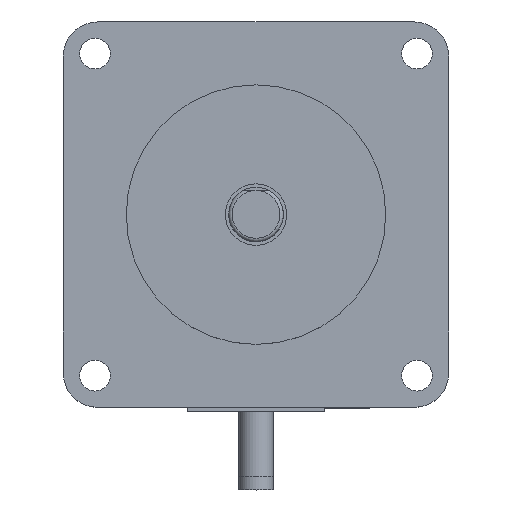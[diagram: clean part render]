
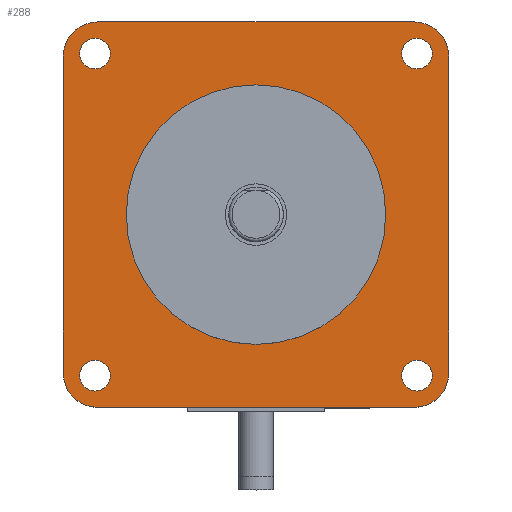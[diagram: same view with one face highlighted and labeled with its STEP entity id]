
A CAD part, top view. The second image highlights one B-rep face of the part: STEP entity #288.
In plain terms, the highlighted planar face has unit normal (0, 0, 1).
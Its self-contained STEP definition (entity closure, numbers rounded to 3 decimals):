
#288=ADVANCED_FACE('',(#800,#801,#802,#803,#804,#805),#411,.F.);
#411=PLANE('',#2372);
#466=LINE('',#3427,#633);
#467=LINE('',#3432,#634);
#468=LINE('',#3436,#635);
#469=LINE('',#3440,#636);
#633=VECTOR('',#2695,1.);
#634=VECTOR('',#2698,1.);
#635=VECTOR('',#2701,1.);
#636=VECTOR('',#2704,1.);
#800=FACE_BOUND('',#843,.T.);
#801=FACE_BOUND('',#844,.T.);
#802=FACE_BOUND('',#845,.T.);
#803=FACE_BOUND('',#846,.T.);
#804=FACE_BOUND('',#847,.T.);
#805=FACE_BOUND('',#848,.T.);
#843=EDGE_LOOP('',(#1013));
#844=EDGE_LOOP('',(#1014));
#845=EDGE_LOOP('',(#1015));
#846=EDGE_LOOP('',(#1016));
#847=EDGE_LOOP('',(#1017));
#848=EDGE_LOOP('',(#1018,#1019,#1020,#1021,#1022,#1023,#1024,#1025));
#1013=ORIENTED_EDGE('',*,*,#1885,.F.);
#1014=ORIENTED_EDGE('',*,*,#1886,.F.);
#1015=ORIENTED_EDGE('',*,*,#1887,.F.);
#1016=ORIENTED_EDGE('',*,*,#1888,.F.);
#1017=ORIENTED_EDGE('',*,*,#1889,.T.);
#1018=ORIENTED_EDGE('',*,*,#1890,.F.);
#1019=ORIENTED_EDGE('',*,*,#1891,.T.);
#1020=ORIENTED_EDGE('',*,*,#1892,.F.);
#1021=ORIENTED_EDGE('',*,*,#1893,.T.);
#1022=ORIENTED_EDGE('',*,*,#1894,.F.);
#1023=ORIENTED_EDGE('',*,*,#1895,.T.);
#1024=ORIENTED_EDGE('',*,*,#1896,.F.);
#1025=ORIENTED_EDGE('',*,*,#1897,.T.);
#1663=VERTEX_POINT('',#3418);
#1664=VERTEX_POINT('',#3420);
#1665=VERTEX_POINT('',#3422);
#1666=VERTEX_POINT('',#3424);
#1667=VERTEX_POINT('',#3426);
#1668=VERTEX_POINT('',#3428);
#1669=VERTEX_POINT('',#3429);
#1670=VERTEX_POINT('',#3431);
#1671=VERTEX_POINT('',#3433);
#1672=VERTEX_POINT('',#3435);
#1673=VERTEX_POINT('',#3437);
#1674=VERTEX_POINT('',#3439);
#1675=VERTEX_POINT('',#3441);
#1885=EDGE_CURVE('',#1663,#1663,#2200,.T.);
#1886=EDGE_CURVE('',#1664,#1664,#2201,.T.);
#1887=EDGE_CURVE('',#1665,#1665,#2202,.T.);
#1888=EDGE_CURVE('',#1666,#1666,#2203,.T.);
#1889=EDGE_CURVE('',#1667,#1667,#2204,.T.);
#1890=EDGE_CURVE('',#1668,#1669,#466,.T.);
#1891=EDGE_CURVE('',#1668,#1670,#2205,.T.);
#1892=EDGE_CURVE('',#1671,#1670,#467,.T.);
#1893=EDGE_CURVE('',#1671,#1672,#2206,.T.);
#1894=EDGE_CURVE('',#1673,#1672,#468,.T.);
#1895=EDGE_CURVE('',#1673,#1674,#2207,.T.);
#1896=EDGE_CURVE('',#1675,#1674,#469,.T.);
#1897=EDGE_CURVE('',#1675,#1669,#2208,.T.);
#2200=CIRCLE('',#2363,2.25);
#2201=CIRCLE('',#2364,2.25);
#2202=CIRCLE('',#2365,2.25);
#2203=CIRCLE('',#2366,2.25);
#2204=CIRCLE('',#2367,19.);
#2205=CIRCLE('',#2368,5.);
#2206=CIRCLE('',#2369,5.);
#2207=CIRCLE('',#2370,5.);
#2208=CIRCLE('',#2371,5.);
#2363=AXIS2_PLACEMENT_3D('',#3417,#2685,#2686);
#2364=AXIS2_PLACEMENT_3D('',#3419,#2687,#2688);
#2365=AXIS2_PLACEMENT_3D('',#3421,#2689,#2690);
#2366=AXIS2_PLACEMENT_3D('',#3423,#2691,#2692);
#2367=AXIS2_PLACEMENT_3D('',#3425,#2693,#2694);
#2368=AXIS2_PLACEMENT_3D('',#3430,#2696,#2697);
#2369=AXIS2_PLACEMENT_3D('',#3434,#2699,#2700);
#2370=AXIS2_PLACEMENT_3D('',#3438,#2702,#2703);
#2371=AXIS2_PLACEMENT_3D('',#3442,#2705,#2706);
#2372=AXIS2_PLACEMENT_3D('',#3443,#2707,#2708);
#2685=DIRECTION('',(0.,0.,1.));
#2686=DIRECTION('',(1.,0.,0.));
#2687=DIRECTION('',(0.,0.,1.));
#2688=DIRECTION('',(1.,0.,0.));
#2689=DIRECTION('',(0.,0.,1.));
#2690=DIRECTION('',(1.,0.,0.));
#2691=DIRECTION('',(0.,0.,1.));
#2692=DIRECTION('',(1.,0.,0.));
#2693=DIRECTION('',(0.,0.,-1.));
#2694=DIRECTION('',(1.,0.,0.));
#2695=DIRECTION('',(-1.,0.,0.));
#2696=DIRECTION('',(0.,0.,1.));
#2697=DIRECTION('',(-1.,0.,0.));
#2698=DIRECTION('',(0.,-1.,0.));
#2699=DIRECTION('',(0.,0.,1.));
#2700=DIRECTION('',(-1.,0.,0.));
#2701=DIRECTION('',(1.,0.,0.));
#2702=DIRECTION('',(0.,0.,1.));
#2703=DIRECTION('',(-1.,0.,0.));
#2704=DIRECTION('',(0.,1.,0.));
#2705=DIRECTION('',(0.,0.,1.));
#2706=DIRECTION('',(-1.,0.,0.));
#2707=DIRECTION('',(0.,0.,-1.));
#2708=DIRECTION('',(-1.,0.,0.));
#3417=CARTESIAN_POINT('',(-23.57,-23.57,0.));
#3418=CARTESIAN_POINT('',(-21.32,-23.57,0.));
#3419=CARTESIAN_POINT('',(-23.57,23.57,0.));
#3420=CARTESIAN_POINT('',(-21.32,23.57,0.));
#3421=CARTESIAN_POINT('',(23.57,23.57,0.));
#3422=CARTESIAN_POINT('',(25.82,23.57,0.));
#3423=CARTESIAN_POINT('',(23.57,-23.57,0.));
#3424=CARTESIAN_POINT('',(25.82,-23.57,0.));
#3425=CARTESIAN_POINT('',(0.,0.,0.));
#3426=CARTESIAN_POINT('',(19.,0.,0.));
#3427=CARTESIAN_POINT('',(28.2,-28.2,0.));
#3428=CARTESIAN_POINT('',(23.2,-28.2,0.));
#3429=CARTESIAN_POINT('',(-23.2,-28.2,0.));
#3430=CARTESIAN_POINT('',(23.2,-23.2,0.));
#3431=CARTESIAN_POINT('',(28.2,-23.2,0.));
#3432=CARTESIAN_POINT('',(28.2,28.2,0.));
#3433=CARTESIAN_POINT('',(28.2,23.2,0.));
#3434=CARTESIAN_POINT('',(23.2,23.2,0.));
#3435=CARTESIAN_POINT('',(23.2,28.2,0.));
#3436=CARTESIAN_POINT('',(-28.2,28.2,0.));
#3437=CARTESIAN_POINT('',(-23.2,28.2,0.));
#3438=CARTESIAN_POINT('',(-23.2,23.2,0.));
#3439=CARTESIAN_POINT('',(-28.2,23.2,0.));
#3440=CARTESIAN_POINT('',(-28.2,-28.2,0.));
#3441=CARTESIAN_POINT('',(-28.2,-23.2,0.));
#3442=CARTESIAN_POINT('',(-23.2,-23.2,0.));
#3443=CARTESIAN_POINT('',(-28.2,-28.2,0.));
